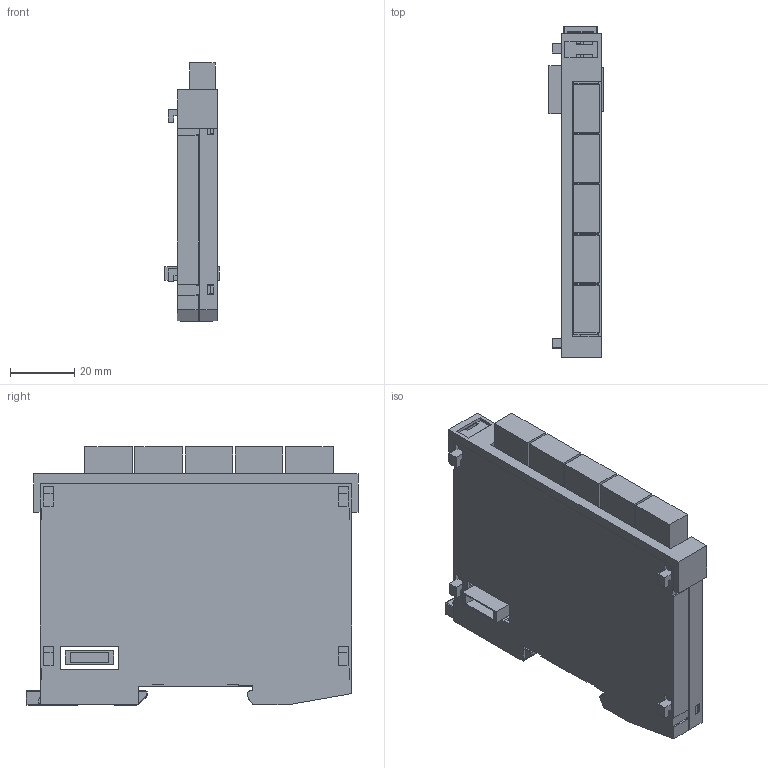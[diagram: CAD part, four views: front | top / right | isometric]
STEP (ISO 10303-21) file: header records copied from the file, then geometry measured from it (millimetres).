
FILE_DESCRIPTION (( 'STEP AP214' ), '1' );
FILE_NAME ('DM108 support.STEP', '2019-04-26T07:30:10', ( 'Windows-Benutzer' ), ( '' ), 'SwSTEP 2.0', 'SolidWorks 2018', '' );
FILE_SCHEMA (( 'AUTOMOTIVE_DESIGN' ));
Length unit declared in the file: millimetre
Products named in the file (10): Dummy_4110251205 4pol.Minicombicon-Grundgehäuse RM3,5 1937512; Schieber_f Suport; Dummy_4080225345 Erni Buchse; DM108 support; Dummy_4080225346 Erni Stift; S-Dias Schale links_f Suport; ZM1505-2730-10 Rasthaken S-Dias; S-Dias Schale rechts_f Suport; LP_DM108; Dummy_4110262104 4pol.Federkraftstecker f.2reih 1952283
Assembly tree (17 placements, depth 3):
  DM108 support
    S-Dias Schale links_f Suport
    S-Dias Schale rechts_f Suport
    Schieber_f Suport
    LP_DM108
      Dummy_4080225345 Erni Buchse
      Dummy_4080225346 Erni Stift
      Dummy_4110251205 4pol.Minicombicon-Grundgehäuse RM3,5 1937512  x5
      Dummy_4110262104 4pol.Federkraftstecker f.2reih 1952283  x5
    ZM1505-2730-10 Rasthaken S-Dias
Bounding box: 16.8 x 103.15 x 80.2 mm (x, y, z)
Volume: 34863.4 mm3; surface area: 46386.9 mm2
Topology: 16 solids, 16 shells, 778 faces, 2240 edges, 1486 vertices
Faces by surface type: plane 548, cylinder 120, bspline 72, cone 28, torus 10
Entity records: 25742 total; most frequent: CARTESIAN_POINT 7037, ORIENTED_EDGE 4222, DIRECTION 3232, EDGE_CURVE 2111, LINE 1494, VECTOR 1494, VERTEX_POINT 1406, AXIS2_PLACEMENT_3D 869
